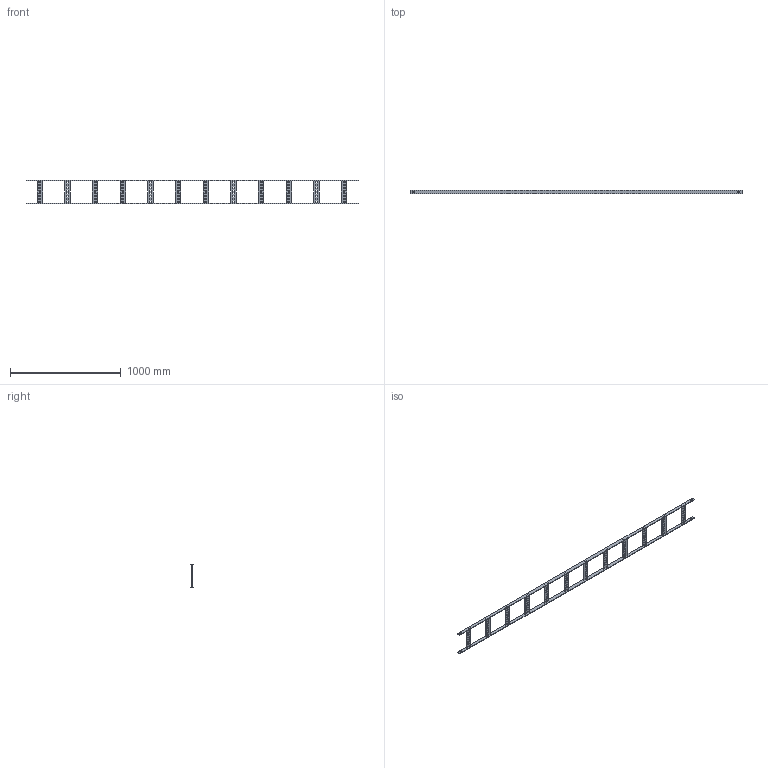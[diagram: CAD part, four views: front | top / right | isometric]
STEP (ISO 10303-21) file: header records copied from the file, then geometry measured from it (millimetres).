
FILE_DESCRIPTION(('Creo Elements/Direct Modeling STEP Export'),'2;1');
FILE_NAME('//pserver/office/EK/ME10-3D/3D-output/SKL 200F.stp','2020-03-10T 9:30:47',(''),(''),'PTC Creo Elements/Direct Modeling STEP processor for AP214 (Solid Model)','PTC Creo Elements/Direct Modeling 19.0C 15-Aug-2015 (C) Parametric Technology GmbH','');
FILE_SCHEMA(('AUTOMOTIVE_DESIGN { 1 0 10303 214 1 1 1 1 }'));
Length unit declared in the file: millimetre
Products named in the file (3): SKL_Holm-L3000.1; SKLSP_020B.002; SKL_200F
Assembly tree (14 placements, depth 2):
  SKL_200F
    SKLSP_020B.002  x12
    SKL_Holm-L3000.1  x2
Bounding box: 3000 x 30 x 210 mm (x, y, z)
Volume: 1326245.6 mm3; surface area: 677617.2 mm2
Topology: 14 solids, 14 shells, 484 faces, 1368 edges, 912 vertices
Faces by surface type: plane 284, cylinder 200
Entity records: 1879 total; most frequent: DIRECTION 318, CARTESIAN_POINT 307, ORIENTED_EDGE 288, EDGE_CURVE 144, AXIS2_PLACEMENT_3D 107, VECTOR 104, LINE 104, VERTEX_POINT 96
